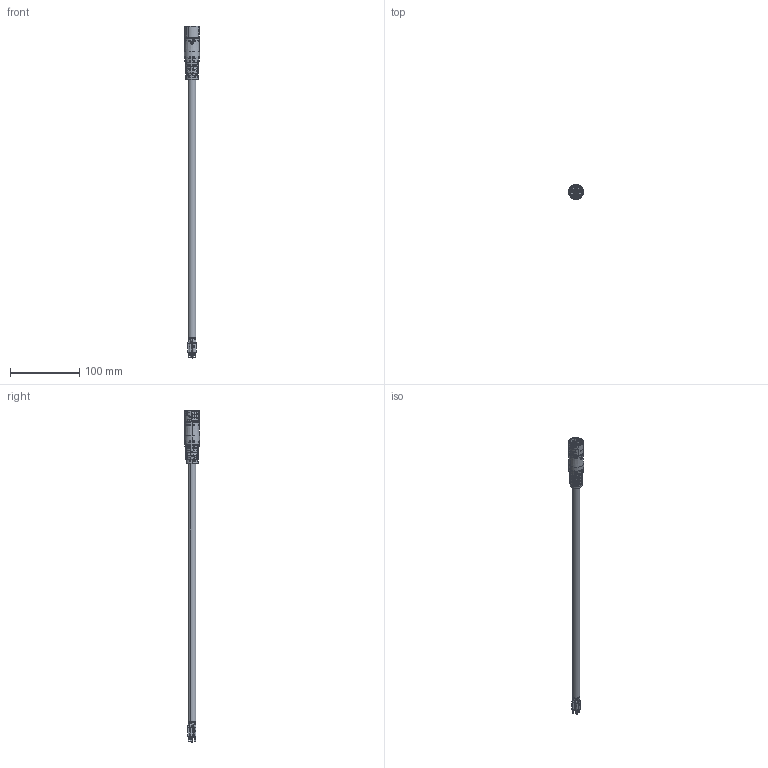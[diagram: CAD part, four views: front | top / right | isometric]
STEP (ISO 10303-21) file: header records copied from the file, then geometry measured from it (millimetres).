
FILE_DESCRIPTION (( 'STEP AP214' ), '1' );
FILE_NAME ('W-TEC 15K GLATT-BU 6x1,5_2,5.STEP', '2021-05-18T13:32:37', ( '' ), ( '' ), 'SwSTEP 2.0', 'SolidWorks 2021', '' );
FILE_SCHEMA (( 'AUTOMOTIVE_DESIGN' ));
Length unit declared in the file: millimetre
Products named in the file (1): W-TEC 15K GLATT-BU 6x1,5_2,5
Bounding box: 21.78 x 21.84 x 479.16 mm (x, y, z)
Surface area: 22752 mm2 (no closed solid volume)
Topology: 0 solids, 6 shells, 2073 faces, 4942 edges, 3221 vertices
Faces by surface type: cylinder 906, plane 652, bspline 456, cone 33, torus 26
Entity records: 110072 total; most frequent: CARTESIAN_POINT 41919, ORIENTED_EDGE 9625, DIRECTION 8881, EDGE_CURVE 4876, AXIS2_PLACEMENT_3D 3695, VERTEX_POINT 3221, EDGE_LOOP 2490, CIRCLE 2077
